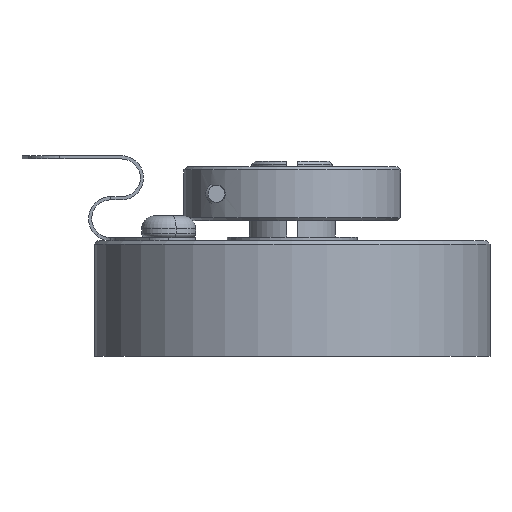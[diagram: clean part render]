
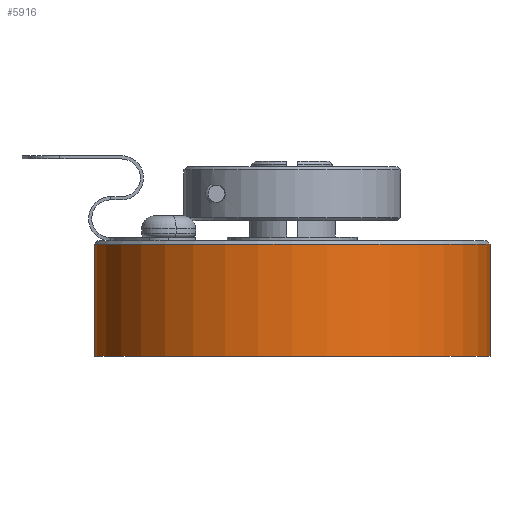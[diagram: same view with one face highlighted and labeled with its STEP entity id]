
A CAD part, front view. The second image highlights one B-rep face of the part: STEP entity #5916.
In plain terms, the highlighted cylindrical face has radius 18.25 mm (diameter 36.5 mm), a partial arc.
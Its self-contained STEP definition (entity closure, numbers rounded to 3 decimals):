
#158 = EDGE_CURVE ( 'NONE', #4226, #5657, #16908, .T. ) ;
#485 = AXIS2_PLACEMENT_3D ( 'NONE', #6282, #19193, #19397 ) ;
#1175 = CARTESIAN_POINT ( 'NONE',  ( 18.25, 0., 1000. ) ) ;
#1412 = ORIENTED_EDGE ( 'NONE', *, *, #2180, .T. ) ;
#1476 = LINE ( 'NONE', #10369, #16608 ) ;
#1677 = VERTEX_POINT ( 'NONE', #15264 ) ;
#1874 = CARTESIAN_POINT ( 'NONE',  ( 0., 0., 1000. ) ) ;
#2180 = EDGE_CURVE ( 'NONE', #5657, #1677, #17515, .T. ) ;
#2328 = EDGE_LOOP ( 'NONE', ( #14911, #3114, #9432, #1412 ) ) ;
#3114 = ORIENTED_EDGE ( 'NONE', *, *, #11200, .T. ) ;
#4226 = VERTEX_POINT ( 'NONE', #9472 ) ;
#5657 = VERTEX_POINT ( 'NONE', #10882 ) ;
#5889 = AXIS2_PLACEMENT_3D ( 'NONE', #1874, #7202, #10590 ) ;
#5916 = ADVANCED_FACE ( 'NONE', ( #14914 ), #12001, .T. ) ;
#6282 = CARTESIAN_POINT ( 'NONE',  ( 0., 0., 1.3 ) ) ;
#7202 = DIRECTION ( 'NONE',  ( 0., 0., 1. ) ) ;
#8685 = CARTESIAN_POINT ( 'NONE',  ( -18.25, 0., 1.3 ) ) ;
#9098 = DIRECTION ( 'NONE',  ( 0., 0., 1. ) ) ;
#9432 = ORIENTED_EDGE ( 'NONE', *, *, #158, .T. ) ;
#9472 = CARTESIAN_POINT ( 'NONE',  ( 18.25, 0., 1.3 ) ) ;
#10369 = CARTESIAN_POINT ( 'NONE',  ( -18.25, 0., 1000. ) ) ;
#10590 = DIRECTION ( 'NONE',  ( 1., 0., 0. ) ) ;
#10681 = VECTOR ( 'NONE', #9098, 1000. ) ;
#10882 = CARTESIAN_POINT ( 'NONE',  ( 18.25, 0., 11.65 ) ) ;
#11200 = EDGE_CURVE ( 'NONE', #14750, #4226, #15000, .T. ) ;
#12001 = CYLINDRICAL_SURFACE ( 'NONE', #5889, 18.25 ) ;
#12019 = DIRECTION ( 'NONE',  ( 1., 0., 0. ) ) ;
#12305 = DIRECTION ( 'NONE',  ( 0., 0., -1. ) ) ;
#14750 = VERTEX_POINT ( 'NONE', #8685 ) ;
#14911 = ORIENTED_EDGE ( 'NONE', *, *, #15295, .F. ) ;
#14914 = FACE_OUTER_BOUND ( 'NONE', #2328, .T. ) ;
#15000 = CIRCLE ( 'NONE', #485, 18.25 ) ;
#15264 = CARTESIAN_POINT ( 'NONE',  ( -18.25, 0., 11.65 ) ) ;
#15295 = EDGE_CURVE ( 'NONE', #14750, #1677, #1476, .T. ) ;
#16608 = VECTOR ( 'NONE', #19962, 1000. ) ;
#16828 = CARTESIAN_POINT ( 'NONE',  ( 0., 0., 11.65 ) ) ;
#16908 = LINE ( 'NONE', #1175, #10681 ) ;
#17515 = CIRCLE ( 'NONE', #18820, 18.25 ) ;
#18820 = AXIS2_PLACEMENT_3D ( 'NONE', #16828, #12305, #12019 ) ;
#19193 = DIRECTION ( 'NONE',  ( 0., 0., 1. ) ) ;
#19397 = DIRECTION ( 'NONE',  ( 1., 0., 0. ) ) ;
#19962 = DIRECTION ( 'NONE',  ( 0., 0., 1. ) ) ;
